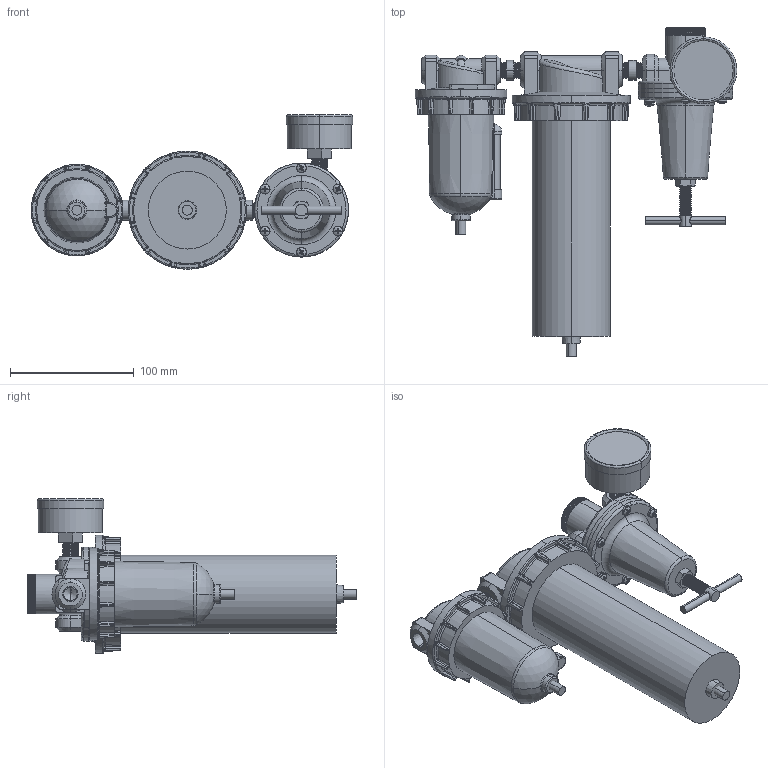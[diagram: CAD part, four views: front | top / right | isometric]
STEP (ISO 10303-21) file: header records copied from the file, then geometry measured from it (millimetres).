
FILE_DESCRIPTION (( 'STEP AP203' ), '1' );
FILE_NAME ('C728#W#-02YB#.STEP', '2016-01-14T17:43:05', ( '' ), ( '' ), 'SwSTEP 2.0', 'SolidWorks 2014', '' );
FILE_SCHEMA (( 'CONFIG_CONTROL_DESIGN' ));
Length unit declared in the file: millimetre
Products named in the file (22): 50-P-AD=1-4PT-2; R119-02-4; 50-P-AD=1-4PT.SLDPRT; R119-02-2; F602-02(04)-上; L606-W-02-下半部; C728#W#-02YB#; R119-02-6; R119-02-3; 50-P-AD=1-4PT-1; L606W-02-刻度計; 1-4-圓; F602W-02#YB#; H604D-02-1; R119-02-1; R119-02-7; H604D-02YB#; R119-02-5; ISO 7045 - M4 x 16; L606-W-06-5; R119-02-無固定架; F602-02-1
Assembly tree (29 placements, depth 4):
  C728#W#-02YB#
    1-4-圓  x2
    F602W-02#YB#
      F602-02-1
      L606-W-06-5
      L606-W-02-下半部
      L606W-02-刻度計
    H604D-02YB#
      L606-W-06-5
      H604D-02-1
      F602-02(04)-上
    R119-02-無固定架
      R119-02-1
      R119-02-2
      R119-02-3
      R119-02-4
      ISO 7045 - M4 x 16  x7
      R119-02-5
      R119-02-6
      R119-02-7
      50-P-AD=1-4PT.SLDPRT
        50-P-AD=1-4PT-1
        50-P-AD=1-4PT-2
Bounding box: 260 x 265.5 x 124.75 mm (x, y, z)
Volume: 1317209.2 mm3; surface area: 179563.1 mm2
Topology: 25 solids, 25 shells, 1571 faces, 3864 edges, 2292 vertices
Faces by surface type: plane 498, cylinder 340, cone 332, bspline 217, torus 107, sphere 77
Entity records: 55745 total; most frequent: CARTESIAN_POINT 25267, ORIENTED_EDGE 6312, DIRECTION 5377, EDGE_CURVE 3156, AXIS2_PLACEMENT_3D 2252, VERTEX_POINT 1896, EDGE_LOOP 1348, FACE_OUTER_BOUND 1313
